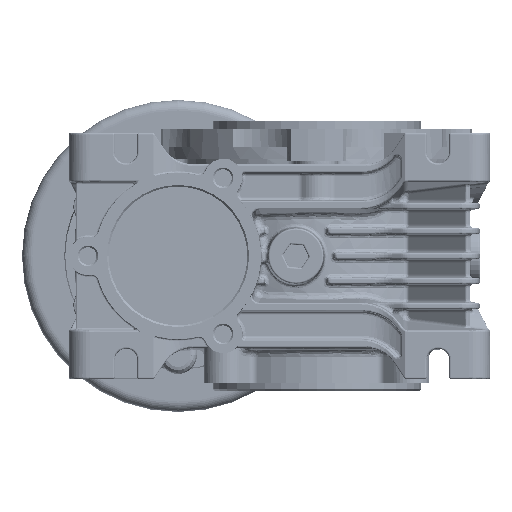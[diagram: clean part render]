
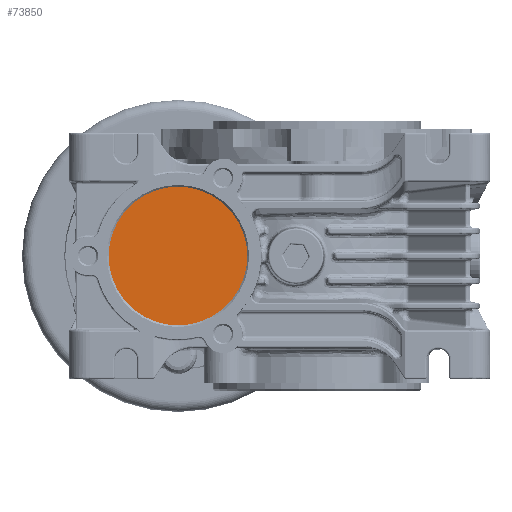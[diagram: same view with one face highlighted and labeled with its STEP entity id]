
A CAD part, left-side view. The second image highlights one B-rep face of the part: STEP entity #73850.
In plain terms, the highlighted planar face has unit normal (-1, 0, 0).
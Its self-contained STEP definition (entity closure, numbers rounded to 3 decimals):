
#1838 = CARTESIAN_POINT ( 'NONE',  ( -50., 40., 0. ) ) ;
#2565 = VERTEX_POINT ( 'NONE', #99370 ) ;
#3273 = ORIENTED_EDGE ( 'NONE', *, *, #22554, .T. ) ;
#19390 = DIRECTION ( 'NONE',  ( 0., 0., 1. ) ) ;
#22554 = EDGE_CURVE ( 'NONE', #114842, #2565, #108607, .T. ) ;
#37360 = FACE_OUTER_BOUND ( 'NONE', #77684, .T. ) ;
#62445 = CARTESIAN_POINT ( 'NONE',  ( -50., 40., 0. ) ) ;
#63652 = CIRCLE ( 'NONE', #86347, 20. ) ;
#73850 = ADVANCED_FACE ( 'NONE', ( #37360 ), #131837, .T. ) ;
#77308 = ORIENTED_EDGE ( 'NONE', *, *, #195194, .T. ) ;
#77684 = EDGE_LOOP ( 'NONE', ( #77308, #3273 ) ) ;
#78914 = CARTESIAN_POINT ( 'NONE',  ( -50., 40., 0. ) ) ;
#80009 = DIRECTION ( 'NONE',  ( 0., 0., 1. ) ) ;
#86347 = AXIS2_PLACEMENT_3D ( 'NONE', #78914, #200835, #96490 ) ;
#92570 = AXIS2_PLACEMENT_3D ( 'NONE', #62445, #184325, #80009 ) ;
#96490 = DIRECTION ( 'NONE',  ( 0., 0., 1. ) ) ;
#99370 = CARTESIAN_POINT ( 'NONE',  ( -50., 40., 20. ) ) ;
#108607 = CIRCLE ( 'NONE', #116046, 20. ) ;
#114842 = VERTEX_POINT ( 'NONE', #155738 ) ;
#116046 = AXIS2_PLACEMENT_3D ( 'NONE', #1838, #123864, #19390 ) ;
#123864 = DIRECTION ( 'NONE',  ( -1., 0., 0. ) ) ;
#131837 = PLANE ( 'NONE',  #92570 ) ;
#155738 = CARTESIAN_POINT ( 'NONE',  ( -50., 40., -20. ) ) ;
#184325 = DIRECTION ( 'NONE',  ( -1., 0., 0. ) ) ;
#195194 = EDGE_CURVE ( 'NONE', #2565, #114842, #63652, .T. ) ;
#200835 = DIRECTION ( 'NONE',  ( -1., 0., 0. ) ) ;
